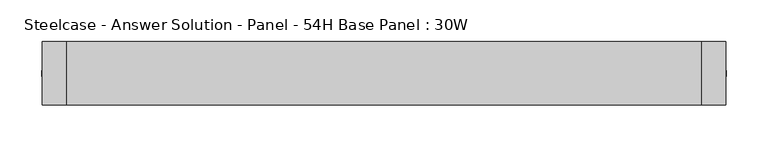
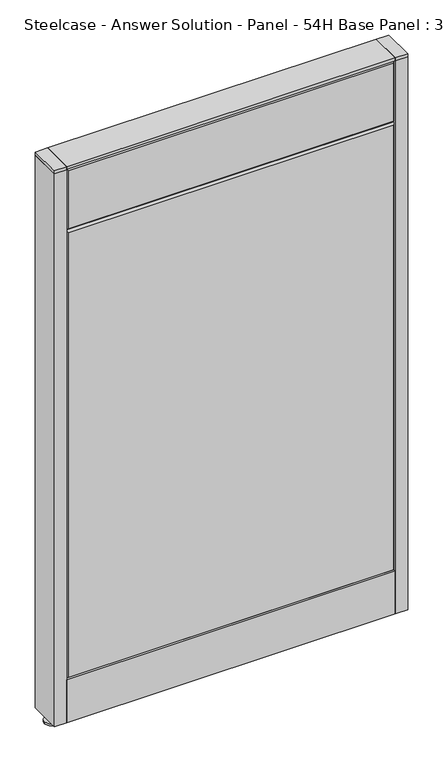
"""IFC4 building model written with IfcOpenShell, lengths in millimetres: furniture geometry, Steelcase - Answer Solution - Panel - 54H Base Panel : 30W."""

import ifcopenshell
import ifcopenshell.guid

model = None  # the IFC model being written
_history = None  # IfcOwnerHistory: only IFC2X3 demands one
_inside = {}  # id of a spatial element -> (the spatial element, [elements in it])
_under = {}  # id of a project, library or spatial element -> (it, [spatial elements below it])
_declared = {}  # id of a project -> (the project, [libraries it declares])
_typed = {}  # id of a type object -> (the type object, [elements of that type])
_made_of = {}  # id of a material, layer set ... -> (it, [elements and type objects made of it])


def new_model(schema):
    """Start an empty IFC model of exactly this schema.

    Asked for "IFC4X3", IfcOpenShell would pick the latest addendum, in which some entities
    have other attributes; the version numbers below select the first issue.
    IFC2X3 requires an IfcOwnerHistory on every rooted entity: one is made here for all.
    """
    global model, _history
    if schema == "IFC4X3":
        model = ifcopenshell.file(schema_version=(4, 3, 0, 0))
    else:
        model = ifcopenshell.file(schema=schema)
    _inside.clear()
    _under.clear()
    _declared.clear()
    _typed.clear()
    _made_of.clear()
    _history = None
    if model.schema == "IFC2X3":
        org = make("IfcOrganization", Name="unknown")
        user = make(
            "IfcPersonAndOrganization",
            ThePerson=make("IfcPerson", FamilyName="unknown"),
            TheOrganization=org,
        )
        app = make(
            "IfcApplication",
            ApplicationDeveloper=org,
            Version="unknown",
            ApplicationFullName="unknown",
            ApplicationIdentifier="unknown",
        )
        _history = make(
            "IfcOwnerHistory",
            OwningUser=user,
            OwningApplication=app,
            ChangeAction="ADDED",
            CreationDate=0,
        )
    return model


def make(cls, **values):
    """One entity of the class cls with the attributes given. An attribute that is None is left unset."""
    return model.create_entity(
        cls, **{name: value for name, value in values.items() if value is not None}
    )


def rooted(cls, **values):
    """An entity with a GlobalId (a new one), such as an element, a storey or a relation."""
    return make(cls, GlobalId=ifcopenshell.guid.new(), OwnerHistory=_history, **values)


def si_unit(unit_type, name, prefix=None):
    """IfcSIUnit, for example si_unit("LENGTHUNIT", "METRE", prefix="MILLI")."""
    return make("IfcSIUnit", UnitType=unit_type, Prefix=prefix, Name=name)


def assignment(units):
    """IfcUnitAssignment: the units of a project."""
    return None if units is None else make("IfcUnitAssignment", Units=units)


def point(xyz):
    """IfcCartesianPoint."""
    return None if xyz is None else make("IfcCartesianPoint", Coordinates=xyz)


def direction(xyz):
    """IfcDirection."""
    return None if xyz is None else make("IfcDirection", DirectionRatios=xyz)


def frame(location, z_axis=None, x_axis=None):
    """IfcAxis2Placement3D, a coordinate frame: its origin and axes. An axis left out is left unset."""
    return make(
        "IfcAxis2Placement3D",
        Location=point(location),
        Axis=direction(z_axis),
        RefDirection=direction(x_axis),
    )


def frame_2d(location, x_axis=None):
    """IfcAxis2Placement2D, a coordinate frame in the plane: its origin and x axis."""
    return make(
        "IfcAxis2Placement2D", Location=point(location), RefDirection=direction(x_axis)
    )


def origin():
    """The frame at (0, 0, 0) with its axes left unset."""
    return frame((0.0, 0.0, 0.0))


def place(relative_to, where):
    """IfcLocalPlacement: puts the frame where relative to a parent placement (None: the world)."""
    return make(
        "IfcLocalPlacement", PlacementRelTo=relative_to, RelativePlacement=where
    )


def context(
    kind, dimensions, precision=None, world=None, true_north=None, identifier=None
):
    """IfcGeometricRepresentationContext, for example the 3D "Model" context."""
    return make(
        "IfcGeometricRepresentationContext",
        ContextIdentifier=identifier,
        ContextType=kind,
        CoordinateSpaceDimension=dimensions,
        Precision=precision,
        WorldCoordinateSystem=world,
        TrueNorth=true_north,
    )


def project(units=None, contexts=None):
    """IfcProject with its units and contexts."""
    return rooted(
        "IfcProject",
        Name="project",
        RepresentationContexts=contexts,
        UnitsInContext=assignment(units),
    )


def spatial(cls, under=None, at=None, **own):
    """A site, building, storey or space (cls), placed at a placement, below another one or the project."""
    s = rooted(cls, ObjectPlacement=at, **own)
    if under is not None:
        _under.setdefault(under.id(), (under, []))[1].append(s)
    return s


def polyline(points):
    """IfcPolyline through the points."""
    return make("IfcPolyline", Points=[point(p) for p in points])


def circle_curve(where, radius):
    """IfcCircle in the frame where."""
    return make("IfcCircle", Position=where, Radius=radius)


def trimmed(basis, trim1, trim2, sense, master):
    """IfcTrimmedCurve: the piece of a basis curve between two trims."""
    return make(
        "IfcTrimmedCurve",
        BasisCurve=basis,
        Trim1=trim1,
        Trim2=trim2,
        SenseAgreement=sense,
        MasterRepresentation=master,
    )


def segment(curve, same_sense, transition):
    """IfcCompositeCurveSegment."""
    return make(
        "IfcCompositeCurveSegment",
        Transition=transition,
        SameSense=same_sense,
        ParentCurve=curve,
    )


def composite_curve(segments, self_intersect=None):
    """IfcCompositeCurve: segments joined end to end."""
    return make("IfcCompositeCurve", Segments=segments, SelfIntersect=self_intersect)


def outline(outer, holes=None, kind="AREA"):
    """IfcArbitraryClosedProfileDef: a profile drawn as a closed curve; with holes, ...WithVoids."""
    if holes is None:
        return make("IfcArbitraryClosedProfileDef", ProfileType=kind, OuterCurve=outer)
    return make(
        "IfcArbitraryProfileDefWithVoids",
        ProfileType=kind,
        OuterCurve=outer,
        InnerCurves=holes,
    )


def extrude(swept, where, along, depth):
    """IfcExtrudedAreaSolid: the profile swept, set in the frame where, extruded along a direction by depth."""
    return make(
        "IfcExtrudedAreaSolid",
        SweptArea=swept,
        Position=where,
        ExtrudedDirection=direction(along),
        Depth=depth,
    )


def faces_of(points, faces, orient=None, outer=None):
    """IfcFace entities. A face is a list of loops; a loop is a list of indices into points, from 0.

    orient and outer hold one flag for each loop. By default every Orientation is true, the
    first loop of a face is its IfcFaceOuterBound and the others are IfcFaceBound.
    """
    made = []
    for i, loops in enumerate(faces):
        bounds = []
        for j, loop in enumerate(loops):
            is_outer = j == 0 if outer is None else outer[i][j]
            bounds.append(
                make(
                    "IfcFaceOuterBound" if is_outer else "IfcFaceBound",
                    Bound=make("IfcPolyLoop", Polygon=[points[k] for k in loop]),
                    Orientation=True if orient is None else orient[i][j],
                )
            )
        made.append(make("IfcFace", Bounds=bounds))
    return made


def faceted_brep(points, faces, orient=None, outer=None, voids=None):
    """IfcFacetedBrep: a solid bounded by flat faces; with voids (closed shells), ...WithVoids."""
    shared = [point(p) for p in points]
    hull = make("IfcClosedShell", CfsFaces=faces_of(shared, faces, orient, outer))
    if voids is None:
        return make("IfcFacetedBrep", Outer=hull)
    return make(
        "IfcFacetedBrepWithVoids",
        Outer=hull,
        Voids=[
            make(cls, CfsFaces=faces_of(shared, fs, o, b)) for cls, fs, o, b in voids
        ],
    )


def shape(context_of_items, identifier, shape_type, items):
    """IfcShapeRepresentation: the items that make up one representation, for example the "Body"."""
    return make(
        "IfcShapeRepresentation",
        ContextOfItems=context_of_items,
        RepresentationIdentifier=identifier,
        RepresentationType=shape_type,
        Items=items,
    )


def source(mapping_origin, context_of_items, identifier, shape_type, items):
    """IfcRepresentationMap: a shape defined once, which mapped items show again and again."""
    return make(
        "IfcRepresentationMap",
        MappingOrigin=mapping_origin,
        MappedRepresentation=shape(context_of_items, identifier, shape_type, items),
    )


def transform(
    local_origin,
    x_axis=None,
    y_axis=None,
    z_axis=None,
    scale=None,
    scale2=None,
    scale3=None,
    uniform=True,
):
    """IfcCartesianTransformationOperator3D, or its non-uniform kind. x_axis, y_axis, z_axis: its Axis1, 2, 3."""
    if uniform:
        return make(
            "IfcCartesianTransformationOperator3D",
            Axis1=direction(x_axis),
            Axis2=direction(y_axis),
            LocalOrigin=point(local_origin),
            Scale=scale,
            Axis3=direction(z_axis),
        )
    return make(
        "IfcCartesianTransformationOperator3DnonUniform",
        Axis1=direction(x_axis),
        Axis2=direction(y_axis),
        LocalOrigin=point(local_origin),
        Scale=scale,
        Axis3=direction(z_axis),
        Scale2=scale2,
        Scale3=scale3,
    )


def mapped(mapping_source, mapping_target):
    """IfcMappedItem: shows the shape of a source again, moved by a transform."""
    return make(
        "IfcMappedItem", MappingSource=mapping_source, MappingTarget=mapping_target
    )


def made_of(thing, what):
    """Note that an element or type object is made of a material, layer set ...; save() writes the relation."""
    if what is not None:
        _made_of.setdefault(what.id(), (what, []))[1].append(thing)
    return thing


def element(
    cls,
    number,
    at=None,
    inside=None,
    cuts=None,
    type_object=None,
    material=None,
    context=None,
    identifier="Body",
    shape_type=None,
    held_by="IfcProductDefinitionShape",
    body=None,
    shapes=None,
    **own,
):
    """One element of the class cls, such as IfcWall. Its Tag is "e" and its number.

    at: its placement. inside: the storey or other place that contains it. cuts: it is an
    opening in that element (IfcRelVoidsElement). A single representation is given by context,
    identifier, shape_type and body (its items); several are given by shapes. held_by: the class
    of the entity that holds the representations. save() writes the other relations.
    """
    e = rooted(cls, Tag="e%d" % number, ObjectPlacement=at, **own)
    if body is not None:
        shapes = [shape(context, identifier, shape_type, body)]
    if shapes is not None:
        e.Representation = make(held_by, Representations=shapes)
    if inside is not None:
        _inside.setdefault(inside.id(), (inside, []))[1].append(e)
    if cuts is not None:
        rooted(
            "IfcRelVoidsElement", RelatingBuildingElement=cuts, RelatedOpeningElement=e
        )
    if type_object is not None:
        _typed.setdefault(type_object.id(), (type_object, []))[1].append(e)
    return made_of(e, material)


def aggregate(whole, parts):
    """IfcRelAggregates: a whole, such as a stair, and the parts it consists of."""
    return rooted("IfcRelAggregates", RelatingObject=whole, RelatedObjects=parts)


def save(model, path):
    """Write the relations noted so far, then the file.

    IfcRelAggregates (storeys below a building ...), IfcRelContainedInSpatialStructure (elements
    in a storey), IfcRelDefinesByType, IfcRelAssociatesMaterial and IfcRelDeclares: one each for
    every whole, place, type object, material and project.
    """
    for whole, parts in _under.values():
        aggregate(whole, parts)
    for where, things in _inside.values():
        rooted(
            "IfcRelContainedInSpatialStructure",
            RelatedElements=things,
            RelatingStructure=where,
        )
    for kind, things in _typed.values():
        rooted("IfcRelDefinesByType", RelatedObjects=things, RelatingType=kind)
    for what, things in _made_of.values():
        rooted("IfcRelAssociatesMaterial", RelatedObjects=things, RelatingMaterial=what)
    for by, libraries in _declared.values():
        rooted("IfcRelDeclares", RelatingContext=by, RelatedDefinitions=libraries)
    model.write(path)


def steelcase_answer_solution_panel_54h_base_panel_30w_64f96e42(model_context):
    return source(origin(), model_context, "Body", "SolidModel", [
        extrude(outline(composite_curve([segment(trimmed(circle_curve(frame_2d((395.224, 0.0320214)), 5.08), [point((400.304, 0.0320214))], [point((390.144, 0.0320214))], False, "CARTESIAN"), True, "CONTINUOUS"), segment(trimmed(circle_curve(frame_2d((395.224, 0.0320214)), 5.08), [point((390.144, 0.0320214))], [point((400.304, 0.0320214))], False, "CARTESIAN"), True, "CONTINUOUS")], self_intersect=False)), frame((0.0, 0.0, 5.0799671), z_axis=(0.0, 0.0, 1.0), x_axis=(1.0, 0.0, 0.0)), (0.0, 0.0, 1.0), 10.414),
        extrude(outline(composite_curve([segment(trimmed(circle_curve(frame_2d((395.224, 0.0320214)), 15.24), [point((410.464, 0.0320214))], [point((379.984, 0.0320214))], False, "CARTESIAN"), True, "CONTINUOUS"), segment(trimmed(circle_curve(frame_2d((395.224, 0.0320214)), 15.24), [point((379.984, 0.0320214))], [point((410.464, 0.0320214))], False, "CARTESIAN"), True, "CONTINUOUS")], self_intersect=False)), frame((0.0, 0.0, -3.29e-05), z_axis=(0.0, 0.0, 1.0), x_axis=(1.0, 0.0, 0.0)), (0.0, 0.0, 1.0), 5.08),
        extrude(outline(polyline([(409.575, 38.1320408), (409.575, -38.0679592), (381.0, -38.0679592), (381.0, 38.1320408), (409.575, 38.1320408)])), frame((0.0, 0.0, 1370.6348), z_axis=(0.0, 0.0, 1.0), x_axis=(1.0, 0.0, 0.0)), (0.0, 0.0, 1.0), 7.3151671),
        extrude(outline(polyline([(409.575, 38.1320408), (409.575, -38.0679592), (381.0, -38.0679592), (381.0, 38.1320408), (409.575, 38.1320408)])), frame((0.0, 0.0, 15.4939671), z_axis=(0.0, 0.0, 1.0), x_axis=(1.0, 0.0, 0.0)), (0.0, 0.0, 1.0), 1355.1408329),
        extrude(outline(composite_curve([segment(trimmed(circle_curve(frame_2d((-395.224, 0.0320214)), 5.08), [point((-400.304, 0.0320214))], [point((-390.144, 0.0320214))], False, "CARTESIAN"), True, "CONTINUOUS"), segment(trimmed(circle_curve(frame_2d((-395.224, 0.0320214)), 5.08), [point((-390.144, 0.0320214))], [point((-400.304, 0.0320214))], False, "CARTESIAN"), True, "CONTINUOUS")], self_intersect=False)), frame((0.0, 0.0, 5.0799671), z_axis=(0.0, 0.0, 1.0), x_axis=(1.0, 0.0, 0.0)), (0.0, 0.0, 1.0), 10.414),
        extrude(outline(composite_curve([segment(trimmed(circle_curve(frame_2d((-395.224, 0.0320214)), 15.24), [point((-410.464, 0.0320214))], [point((-379.984, 0.0320214))], False, "CARTESIAN"), True, "CONTINUOUS"), segment(trimmed(circle_curve(frame_2d((-395.224, 0.0320214)), 15.24), [point((-379.984, 0.0320214))], [point((-410.464, 0.0320214))], False, "CARTESIAN"), True, "CONTINUOUS")], self_intersect=False)), frame((0.0, 0.0, -3.29e-05), z_axis=(0.0, 0.0, 1.0), x_axis=(1.0, 0.0, 0.0)), (0.0, 0.0, 1.0), 5.08),
        extrude(outline(polyline([(-409.575, 38.1320408), (-381.0, 38.1320408), (-381.0, -38.0679592), (-409.575, -38.0679592), (-409.575, 38.1320408)])), frame((0.0, 0.0, 1370.6348), z_axis=(0.0, 0.0, 1.0), x_axis=(1.0, 0.0, 0.0)), (0.0, 0.0, 1.0), 7.3151671),
        extrude(outline(polyline([(-409.575, 38.1320408), (-381.0, 38.1320408), (-381.0, -38.0679592), (-409.575, -38.0679592), (-409.575, 38.1320408)])), frame((0.0, 0.0, 15.4939671), z_axis=(0.0, 0.0, 1.0), x_axis=(1.0, 0.0, 0.0)), (0.0, 0.0, 1.0), 1355.1408329),
        faceted_brep([(-376.174, 38.1635011, 1366.774), (376.174, 38.1635011, 1366.774), (376.174, 38.1635011, 1224.026), (-376.174, 38.1635011, 1224.026), (-381.0, 33.3375011, 1371.6), (-381.0, 33.3375011, 1219.2), (381.0, 33.3375011, 1219.2), (381.0, 33.3375011, 1371.6)], [[[0, 1, 2, 3]], [[4, 5, 6, 7]], [[4, 7, 1, 0]], [[7, 6, 2, 1]], [[6, 5, 3, 2]], [[5, 4, 0, 3]]]),
        faceted_brep([(-376.174, 38.1635011, 1214.374), (376.174, 38.1635011, 1214.374), (376.174, 38.1635011, 125.476), (-376.174, 38.1635011, 125.476), (-381.0, 33.3375011, 1219.2), (-381.0, 33.3375011, 120.65), (381.0, 33.3375011, 120.65), (381.0, 33.3375011, 1219.2)], [[[0, 1, 2, 3]], [[4, 5, 6, 7]], [[4, 7, 1, 0]], [[7, 6, 2, 1]], [[6, 5, 3, 2]], [[5, 4, 0, 3]]]),
        faceted_brep([(376.174, -38.1635011, 1366.774), (-376.174, -38.1635011, 1366.774), (-376.174, -38.1635011, 1224.026), (376.174, -38.1635011, 1224.026), (381.0, -33.3375011, 1371.6), (381.0, -33.3375011, 1219.2), (-381.0, -33.3375011, 1219.2), (-381.0, -33.3375011, 1371.6)], [[[0, 1, 2, 3]], [[4, 5, 6, 7]], [[4, 7, 1, 0]], [[7, 6, 2, 1]], [[6, 5, 3, 2]], [[5, 4, 0, 3]]]),
        faceted_brep([(376.174, -38.1635011, 1214.374), (-376.174, -38.1635011, 1214.374), (-376.174, -38.1635011, 125.476), (376.174, -38.1635011, 125.476), (381.0, -33.3375011, 1219.2), (381.0, -33.3375011, 120.65), (-381.0, -33.3375011, 120.65), (-381.0, -33.3375011, 1219.2)], [[[0, 1, 2, 3]], [[4, 5, 6, 7]], [[4, 7, 1, 0]], [[7, 6, 2, 1]], [[6, 5, 3, 2]], [[5, 4, 0, 3]]]),
        extrude(outline(polyline([(381.0, 38.1000194), (381.0, -38.1000194), (-381.0, -38.1000194), (-381.0, 38.1000194), (381.0, 38.1000194)])), frame((0.0, 0.0, 1371.6), z_axis=(0.0, 0.0, 1.0), x_axis=(1.0, 0.0, 0.0)), (0.0, 0.0, 1.0), 6.35),
        extrude(outline(polyline([(25.4000011, 119.8575157), (25.4000011, 120.65), (38.1000194, 120.65), (38.1000194, 15.494), (37.3075215, 15.494), (37.3075215, 119.8575157), (25.4000011, 119.8575157)])), frame((-381.0, 0.0, 0.0), z_axis=(1.0, 0.0, 0.0), x_axis=(0.0, 1.0, 0.0)), (0.0, 0.0, 1.0), 762.0),
        extrude(outline(polyline([(-25.4000011, 119.8575157), (-37.3075215, 119.8575157), (-37.3075215, 15.494), (-38.1000194, 15.494), (-38.1000194, 120.65), (-25.4000011, 120.65), (-25.4000011, 119.8575157)])), frame((-381.0, 0.0, 0.0), z_axis=(1.0, 0.0, 0.0), x_axis=(0.0, 1.0, 0.0)), (0.0, 0.0, 1.0), 762.0),
    ])


if __name__ == "__main__":
    model = new_model("IFC4")
    model_context = context("Model", 3, world=origin())
    ifc_project = project(units=[si_unit("LENGTHUNIT", "METRE", prefix="MILLI")], contexts=[model_context])
    site = spatial("IfcSite", under=ifc_project)
    building = spatial("IfcBuilding", under=site)
    placement = place(None, origin())
    steelcase_answer_solution_panel_54h_base_panel_30w_shape = steelcase_answer_solution_panel_54h_base_panel_30w_64f96e42(model_context)
    element("IfcFurniture", 1, ObjectType="Steelcase - Answer Solution - Panel - 54H Base Panel : 30W", at=placement, inside=building, context=model_context, shape_type="MappedRepresentation", body=[
        mapped(steelcase_answer_solution_panel_54h_base_panel_30w_shape, transform((0.0, 0.0, 0.0), x_axis=(1.0, 0.0, 0.0), y_axis=(0.0, 1.0, 0.0), z_axis=(0.0, 0.0, 1.0))),
    ])
    save(model, "model.ifc")
